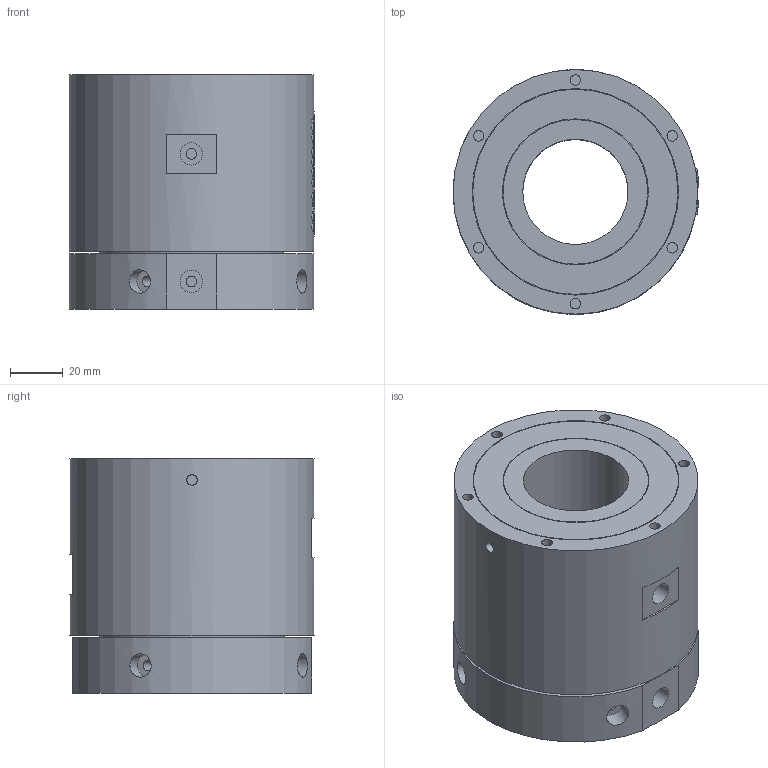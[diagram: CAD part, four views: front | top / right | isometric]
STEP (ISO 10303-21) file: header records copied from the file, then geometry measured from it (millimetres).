
FILE_DESCRIPTION(/* description */ (''),/* implementation_level */ '2;1');
FILE_NAME(/* name */ 'HQ0201D40.stp',/* time_stamp */ '2025-01-19T15:10:56+08:00',/* author */ (''),/* organization */ (''),/* preprocessor_version */ 'ST-DEVELOPER v16.7',/* originating_system */ 'SIEMENS PLM Software NX 12.0',/* authorisation */ '');
FILE_SCHEMA (('AUTOMOTIVE_DESIGN { 1 0 10303 214 3 1 1 1 }'));
Length unit declared in the file: millimetre
Products named in the file (1): HX05089CE4B9be72
Bounding box: 93.47 x 93 x 89 mm (x, y, z)
Volume: 479389.1 mm3; surface area: 61218.3 mm2
Topology: 1 solids, 1 shells, 404 faces, 976 edges, 654 vertices
Faces by surface type: plane 230, extrusion 88, cylinder 57, bspline 29
Full cylindrical faces by diameter (mm): 4 x14, 4.2 x6, 7 x4, 8.5 x4, 8.875 x4, 40 x1, 55 x1, 55.5 x1, 70 x1, 78 x1, 78.5 x1, 93 x1
Entity records: 29116 total; most frequent: CARTESIAN_POINT 20858, ORIENTED_EDGE 1830, DIRECTION 1204, EDGE_CURVE 915, B_SPLINE_CURVE_WITH_KNOTS 669, VERTEX_POINT 650, EDGE_LOOP 551, AXIS2_PLACEMENT_3D 494
